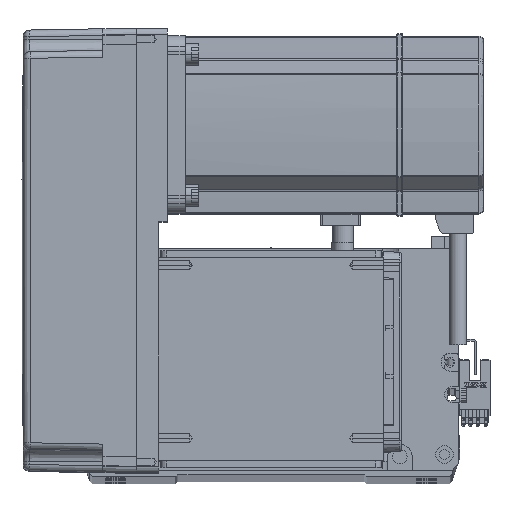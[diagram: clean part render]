
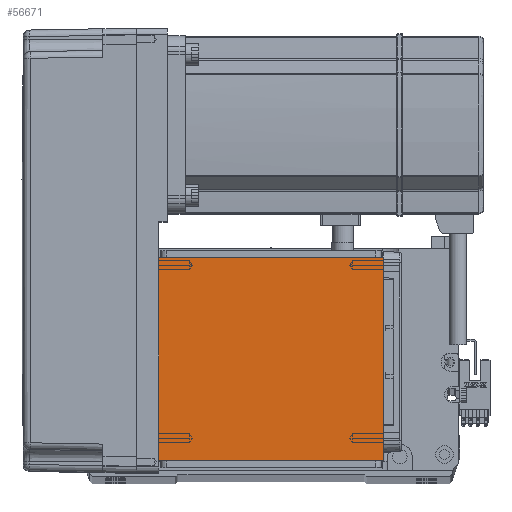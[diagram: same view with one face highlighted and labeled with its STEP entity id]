
A CAD part, top view. The second image highlights one B-rep face of the part: STEP entity #56671.
In plain terms, the highlighted planar face has unit normal (0, 0, 1).
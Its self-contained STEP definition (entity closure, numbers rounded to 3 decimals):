
#3302 = EDGE_CURVE ( 'NONE', #52321, #14876, #59595, .T. ) ;
#3684 = CARTESIAN_POINT ( 'NONE',  ( -70.004, 20., 115. ) ) ;
#4701 = VERTEX_POINT ( 'NONE', #14174 ) ;
#7175 = VECTOR ( 'NONE', #22049, 1000. ) ;
#9893 = ORIENTED_EDGE ( 'NONE', *, *, #3302, .F. ) ;
#13430 = CARTESIAN_POINT ( 'NONE',  ( 50.5, 20., 115. ) ) ;
#14174 = CARTESIAN_POINT ( 'NONE',  ( 50.5, 111.5, 115. ) ) ;
#14876 = VERTEX_POINT ( 'NONE', #34372 ) ;
#20119 = CARTESIAN_POINT ( 'NONE',  ( -50.5, 111.5, 115. ) ) ;
#21062 = VECTOR ( 'NONE', #35321, 1000. ) ;
#21607 = EDGE_CURVE ( 'NONE', #52321, #4701, #48095, .T. ) ;
#22049 = DIRECTION ( 'NONE',  ( -1., 0., 0. ) ) ;
#25907 = CARTESIAN_POINT ( 'NONE',  ( 0., 0., 115. ) ) ;
#30876 = VECTOR ( 'NONE', #45843, 1000. ) ;
#31649 = LINE ( 'NONE', #41088, #30876 ) ;
#33831 = EDGE_CURVE ( 'NONE', #41473, #14876, #43965, .T. ) ;
#34372 = CARTESIAN_POINT ( 'NONE',  ( -50.5, 20., 115. ) ) ;
#34901 = DIRECTION ( 'NONE',  ( 0., 1., 0. ) ) ;
#35188 = DIRECTION ( 'NONE',  ( 1., 0., 0. ) ) ;
#35321 = DIRECTION ( 'NONE',  ( 0., -1., 0. ) ) ;
#35895 = FACE_OUTER_BOUND ( 'NONE', #58113, .T. ) ;
#40685 = CARTESIAN_POINT ( 'NONE',  ( -50.5, 122., 115. ) ) ;
#41088 = CARTESIAN_POINT ( 'NONE',  ( -70.004, 111.5, 115. ) ) ;
#41473 = VERTEX_POINT ( 'NONE', #20119 ) ;
#42407 = EDGE_CURVE ( 'NONE', #41473, #4701, #31649, .T. ) ;
#43965 = LINE ( 'NONE', #40685, #21062 ) ;
#44873 = DIRECTION ( 'NONE',  ( 0., 0., 1. ) ) ;
#45775 = ORIENTED_EDGE ( 'NONE', *, *, #42407, .F. ) ;
#45843 = DIRECTION ( 'NONE',  ( 1., 0., 0. ) ) ;
#46619 = ORIENTED_EDGE ( 'NONE', *, *, #33831, .T. ) ;
#48095 = LINE ( 'NONE', #54729, #57676 ) ;
#49954 = AXIS2_PLACEMENT_3D ( 'NONE', #25907, #44873, #35188 ) ;
#52321 = VERTEX_POINT ( 'NONE', #13430 ) ;
#54729 = CARTESIAN_POINT ( 'NONE',  ( 50.5, 122., 115. ) ) ;
#56671 = ADVANCED_FACE ( 'NONE', ( #35895 ), #58556, .T. ) ;
#57676 = VECTOR ( 'NONE', #34901, 1000. ) ;
#57868 = ORIENTED_EDGE ( 'NONE', *, *, #21607, .T. ) ;
#58113 = EDGE_LOOP ( 'NONE', ( #45775, #46619, #9893, #57868 ) ) ;
#58556 = PLANE ( 'NONE',  #49954 ) ;
#59595 = LINE ( 'NONE', #3684, #7175 ) ;
